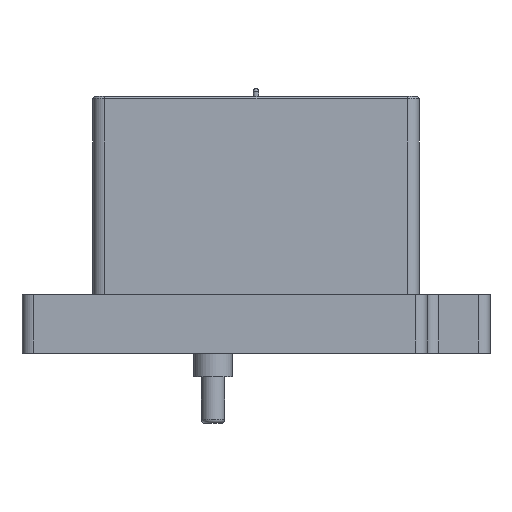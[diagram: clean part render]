
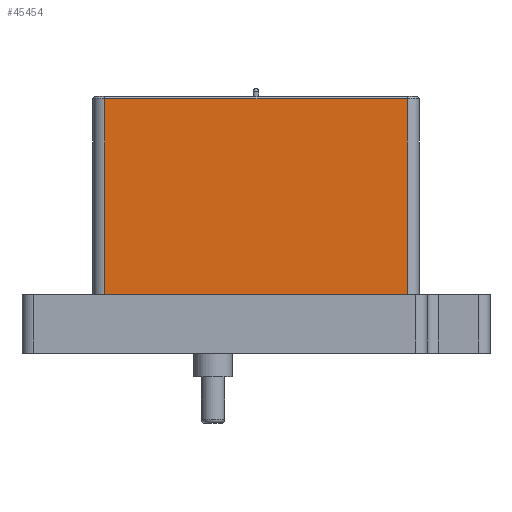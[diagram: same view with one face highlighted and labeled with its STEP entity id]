
A CAD part, left-side view. The second image highlights one B-rep face of the part: STEP entity #45454.
In plain terms, the highlighted planar face has unit normal (-1, 0, 0).
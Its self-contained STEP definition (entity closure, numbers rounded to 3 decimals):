
#1759=PLANE('',#47598);
#3836=FACE_OUTER_BOUND('',#6490,.T.);
#6490=EDGE_LOOP('',(#36296,#36297,#36298,#36299));
#10357=LINE('',#73249,#15186);
#10358=LINE('',#73253,#15187);
#10359=LINE('',#73255,#15188);
#10360=LINE('',#73256,#15189);
#15186=VECTOR('',#53355,10.);
#15187=VECTOR('',#53360,10.);
#15188=VECTOR('',#53361,10.);
#15189=VECTOR('',#53362,10.);
#21422=VERTEX_POINT('',#73242);
#21424=VERTEX_POINT('',#73248);
#21425=VERTEX_POINT('',#73252);
#21426=VERTEX_POINT('',#73254);
#26717=EDGE_CURVE('',#21422,#21424,#10357,.T.);
#26719=EDGE_CURVE('',#21425,#21422,#10358,.T.);
#26720=EDGE_CURVE('',#21426,#21425,#10359,.T.);
#26721=EDGE_CURVE('',#21424,#21426,#10360,.T.);
#36296=ORIENTED_EDGE('',*,*,#26717,.F.);
#36297=ORIENTED_EDGE('',*,*,#26719,.F.);
#36298=ORIENTED_EDGE('',*,*,#26720,.F.);
#36299=ORIENTED_EDGE('',*,*,#26721,.F.);
#45454=ADVANCED_FACE('',(#3836),#1759,.T.);
#47598=AXIS2_PLACEMENT_3D('',#73251,#53358,#53359);
#53355=DIRECTION('',(0.,0.,-1.));
#53358=DIRECTION('center_axis',(-1.,0.,0.));
#53359=DIRECTION('ref_axis',(0.,-1.,0.));
#53360=DIRECTION('',(0.,-1.,0.));
#53361=DIRECTION('',(0.,0.,1.));
#53362=DIRECTION('',(0.,1.,0.));
#73242=CARTESIAN_POINT('',(-67.,-19.4,32.6));
#73248=CARTESIAN_POINT('',(-67.,-19.4,7.5));
#73249=CARTESIAN_POINT('',(-67.,-19.4,7.5));
#73251=CARTESIAN_POINT('Origin',(-67.,20.9,7.5));
#73252=CARTESIAN_POINT('',(-67.,19.4,32.6));
#73253=CARTESIAN_POINT('',(-67.,10.45,32.6));
#73254=CARTESIAN_POINT('',(-67.,19.4,7.5));
#73255=CARTESIAN_POINT('',(-67.,19.4,7.5));
#73256=CARTESIAN_POINT('',(-67.,10.45,7.5));
